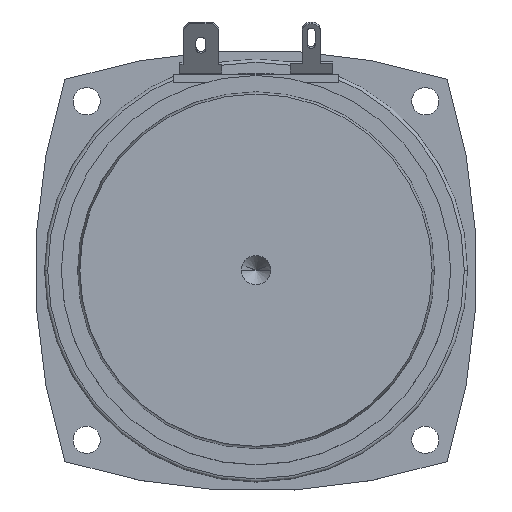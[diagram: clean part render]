
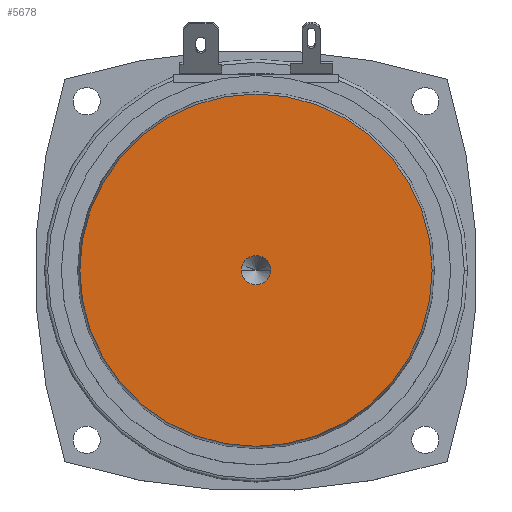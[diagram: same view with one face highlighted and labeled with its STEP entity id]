
A CAD part, top view. The second image highlights one B-rep face of the part: STEP entity #5678.
In plain terms, the highlighted planar face has unit normal (0, 0, 1).
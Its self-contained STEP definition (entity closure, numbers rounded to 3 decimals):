
#1826=CARTESIAN_POINT('',(34.028,34.028,
0.));
#1827=DIRECTION('',(0.,0.,-1.));
#1828=DIRECTION('',(1.,0.,0.));
#1829=AXIS2_PLACEMENT_3D('',#1826,#1827,#1828);
#1831=CARTESIAN_POINT('',(34.028,34.028,
0.));
#1832=DIRECTION('',(0.,0.,-1.));
#1833=DIRECTION('',(-1.,0.,0.));
#1834=AXIS2_PLACEMENT_3D('',#1831,#1832,#1833);
#1836=CARTESIAN_POINT('',(34.028,34.028,0.));
#1837=DIRECTION('',(0.,0.,1.));
#1838=DIRECTION('',(1.,0.,0.));
#1839=AXIS2_PLACEMENT_3D('',#1836,#1837,#1838);
#1841=CARTESIAN_POINT('',(34.028,34.028,0.));
#1842=DIRECTION('',(0.,0.,1.));
#1843=DIRECTION('',(-1.,0.,0.));
#1844=AXIS2_PLACEMENT_3D('',#1841,#1842,#1843);
#2761=CARTESIAN_POINT('',(36.278,34.028,0.));
#2763=VERTEX_POINT('',#2761);
#2764=CARTESIAN_POINT('',(31.778,34.028,0.));
#2765=VERTEX_POINT('',#2764);
#2766=CARTESIAN_POINT('',(61.178,34.028,
0.));
#2767=CARTESIAN_POINT('',(6.878,34.028,
0.));
#2768=VERTEX_POINT('',#2766);
#2769=VERTEX_POINT('',#2767);
#5663=CARTESIAN_POINT('',(34.028,34.028,0.));
#5664=DIRECTION('',(0.,0.,1.));
#5665=DIRECTION('',(1.,0.,0.));
#5666=AXIS2_PLACEMENT_3D('',#5663,#5664,#5665);
#5667=PLANE('',#5666);
#5668=ORIENTED_EDGE('',*,*,#5658,.T.);
#5669=ORIENTED_EDGE('',*,*,#5642,.T.);
#5670=EDGE_LOOP('',(#5668,#5669));
#5671=FACE_OUTER_BOUND('',#5670,.F.);
#5673=ORIENTED_EDGE('',*,*,#5672,.T.);
#5675=ORIENTED_EDGE('',*,*,#5674,.T.);
#5676=EDGE_LOOP('',(#5673,#5675));
#5677=FACE_BOUND('',#5676,.F.);
#1830=CIRCLE('',#1829,27.15);
#1835=CIRCLE('',#1834,27.15);
#1840=CIRCLE('',#1839,2.25);
#1845=CIRCLE('',#1844,2.25);
#5642=EDGE_CURVE('',#2769,#2768,#1835,.T.);
#5658=EDGE_CURVE('',#2768,#2769,#1830,.T.);
#5672=EDGE_CURVE('',#2763,#2765,#1840,.T.);
#5674=EDGE_CURVE('',#2765,#2763,#1845,.T.);
#5678=ADVANCED_FACE('',(#5671,#5677),#5667,.T.);
